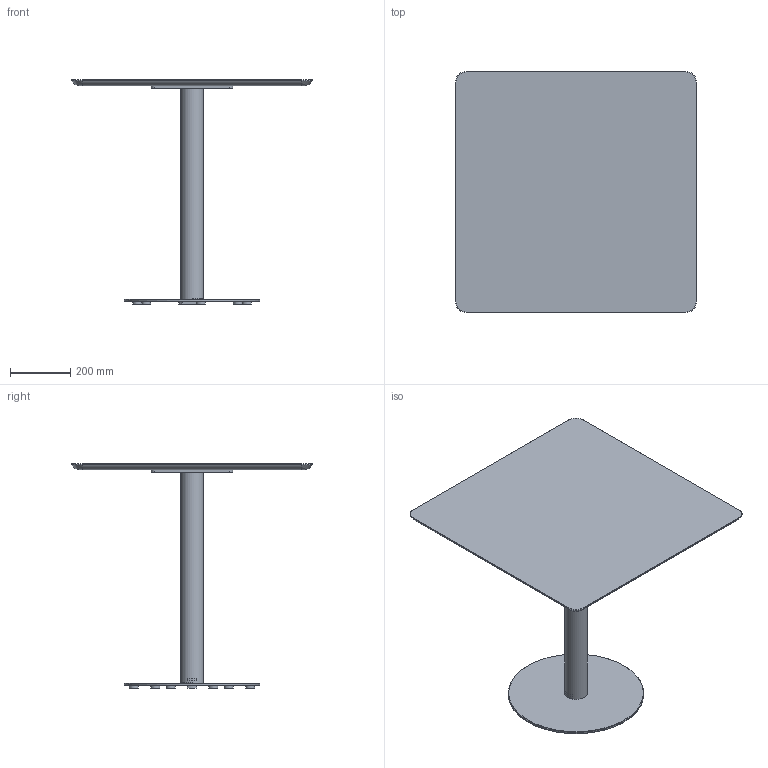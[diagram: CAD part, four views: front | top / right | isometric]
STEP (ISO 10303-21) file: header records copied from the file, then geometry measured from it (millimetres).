
FILE_DESCRIPTION( ('This file contains a STEP AP42 implementation' ,'as created by ZW3D STEP Interface translator.') ,'2;1' );
FILE_NAME( 'Henri - B_Rond - F3 - M3 - 800 x 800 x 750.stp' ,'24 912.154123', (''), ('ZWCAD Software Co.'), 'Version 1.0', 'ZW3D to STEP translator', '' );
FILE_SCHEMA(('AUTOMOTIVE_DESIGN { 1 0 10303 214 1 1 1 1 }'));
Length unit declared in the file: millimetre
Products named in the file (14): 0; PIED BISTROT PARAMETRIQUE_; COLONNE ACIER Ø76 V.02_; TUB-D076-02_; PLA-R76B-01_; SOCLE ACIER C Ø450 V.02_; SCL-D450-02_; PLA-R30A-01_; PLA-R30A-01; CROIX ACIER 370 V.02_; CRX-X370-02_; WUERTH 0276063020 Euro-screw 6.3x2 Verzinkt_; PLATEAU BISTROT PARAMETRIQUE_; insert_m6_13_
Assembly tree (24 placements, depth 3):
  0
  PIED BISTROT PARAMETRIQUE_
    COLONNE ACIER Ø76 V.02_
      TUB-D076-02_
      PLA-R76B-01_  x2
    SOCLE ACIER C Ø450 V.02_
      SCL-D450-02_
      PLA-R30A-01_
      PLA-R30A-01  x5
    CROIX ACIER 370 V.02_
      CRX-X370-02_
    WUERTH 0276063020 Euro-screw 6.3x2 Verzinkt_
    PLATEAU BISTROT PARAMETRIQUE_
      insert_m6_13_  x8
Bounding box: 800 x 800 x 744 mm (x, y, z)
Volume: 14519354.8 mm3; surface area: 2157151.4 mm2
Topology: 21 solids, 21 shells, 524 faces, 1273 edges, 802 vertices
Faces by surface type: plane 250, bspline 125, cylinder 103, cone 45, torus 1
Full cylindrical faces by diameter (mm): 4.88 x1, 6 x8, 6.3 x1, 8 x47, 12 x2, 14 x2, 30 x6, 72 x1, 76 x1, 450 x1
Entity records: 11776 total; most frequent: CARTESIAN_POINT 3352, ORIENTED_EDGE 1526, DIRECTION 1424, EDGE_CURVE 763, VERTEX_POINT 490, AXIS2_PLACEMENT_3D 478, VECTOR 468, LINE 468
